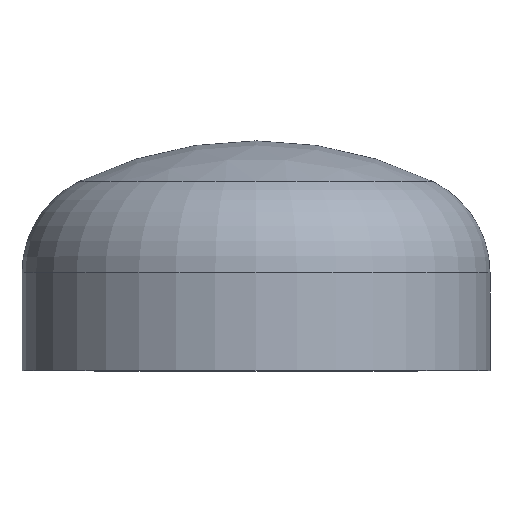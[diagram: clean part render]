
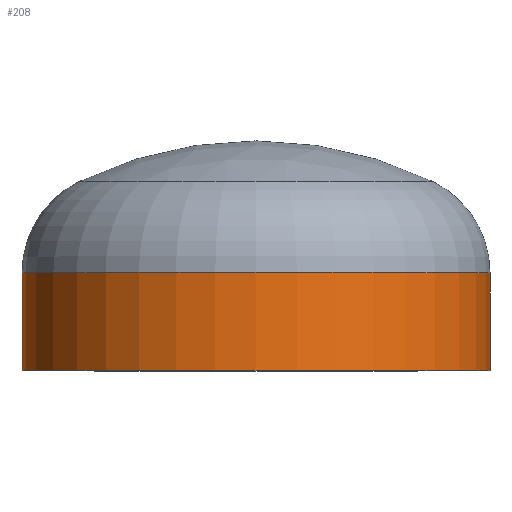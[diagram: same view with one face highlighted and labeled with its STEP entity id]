
A CAD part, top view. The second image highlights one B-rep face of the part: STEP entity #208.
In plain terms, the highlighted cylindrical face has radius 203.2 mm (diameter 406.4 mm), a partial arc.
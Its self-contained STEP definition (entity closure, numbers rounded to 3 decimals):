
#12 = DIRECTION ( 'NONE',  ( 1., 0., 0. ) ) ;
#15 = CARTESIAN_POINT ( 'NONE',  ( 203.2, 0., 0. ) ) ;
#22 = AXIS2_PLACEMENT_3D ( 'NONE', #141, #78, #79 ) ;
#26 = CARTESIAN_POINT ( 'NONE',  ( 0., 0., 0. ) ) ;
#32 = CIRCLE ( 'NONE', #36, 203.2 ) ;
#33 = ORIENTED_EDGE ( 'NONE', *, *, #62, .T. ) ;
#35 = AXIS2_PLACEMENT_3D ( 'NONE', #256, #191, #12 ) ;
#36 = AXIS2_PLACEMENT_3D ( 'NONE', #26, #50, #39 ) ;
#39 = DIRECTION ( 'NONE',  ( 1., 0., 0. ) ) ;
#47 = CIRCLE ( 'NONE', #22, 203.2 ) ;
#50 = DIRECTION ( 'NONE',  ( 0., -1., 0. ) ) ;
#59 = EDGE_CURVE ( 'NONE', #128, #232, #124, .T. ) ;
#62 = EDGE_CURVE ( 'NONE', #222, #168, #110, .T. ) ;
#78 = DIRECTION ( 'NONE',  ( 0., -1., 0. ) ) ;
#79 = DIRECTION ( 'NONE',  ( 1., 0., 0. ) ) ;
#89 = ORIENTED_EDGE ( 'NONE', *, *, #313, .F. ) ;
#107 = ORIENTED_EDGE ( 'NONE', *, *, #59, .F. ) ;
#110 = LINE ( 'NONE', #251, #399 ) ;
#124 = LINE ( 'NONE', #249, #276 ) ;
#128 = VERTEX_POINT ( 'NONE', #375 ) ;
#141 = CARTESIAN_POINT ( 'NONE',  ( 0., 85., 0. ) ) ;
#151 = ORIENTED_EDGE ( 'NONE', *, *, #324, .T. ) ;
#155 = CARTESIAN_POINT ( 'NONE',  ( -203.2, 85., 0. ) ) ;
#166 = CYLINDRICAL_SURFACE ( 'NONE', #35, 203.2 ) ;
#168 = VERTEX_POINT ( 'NONE', #218 ) ;
#191 = DIRECTION ( 'NONE',  ( 0., -1., 0. ) ) ;
#208 = ADVANCED_FACE ( 'NONE', ( #262 ), #166, .T. ) ;
#218 = CARTESIAN_POINT ( 'NONE',  ( -203.2, 0., 0. ) ) ;
#221 = EDGE_LOOP ( 'NONE', ( #151, #33, #89, #107 ) ) ;
#222 = VERTEX_POINT ( 'NONE', #155 ) ;
#223 = DIRECTION ( 'NONE',  ( 0., -1., 0. ) ) ;
#232 = VERTEX_POINT ( 'NONE', #15 ) ;
#249 = CARTESIAN_POINT ( 'NONE',  ( 203.2, 0., 0. ) ) ;
#251 = CARTESIAN_POINT ( 'NONE',  ( -203.2, 0., 0. ) ) ;
#256 = CARTESIAN_POINT ( 'NONE',  ( 0., 0., 0. ) ) ;
#262 = FACE_OUTER_BOUND ( 'NONE', #221, .T. ) ;
#267 = DIRECTION ( 'NONE',  ( 0., -1., 0. ) ) ;
#276 = VECTOR ( 'NONE', #267, 1000. ) ;
#313 = EDGE_CURVE ( 'NONE', #232, #168, #32, .T. ) ;
#324 = EDGE_CURVE ( 'NONE', #128, #222, #47, .T. ) ;
#375 = CARTESIAN_POINT ( 'NONE',  ( 203.2, 85., 0. ) ) ;
#399 = VECTOR ( 'NONE', #223, 1000. ) ;
